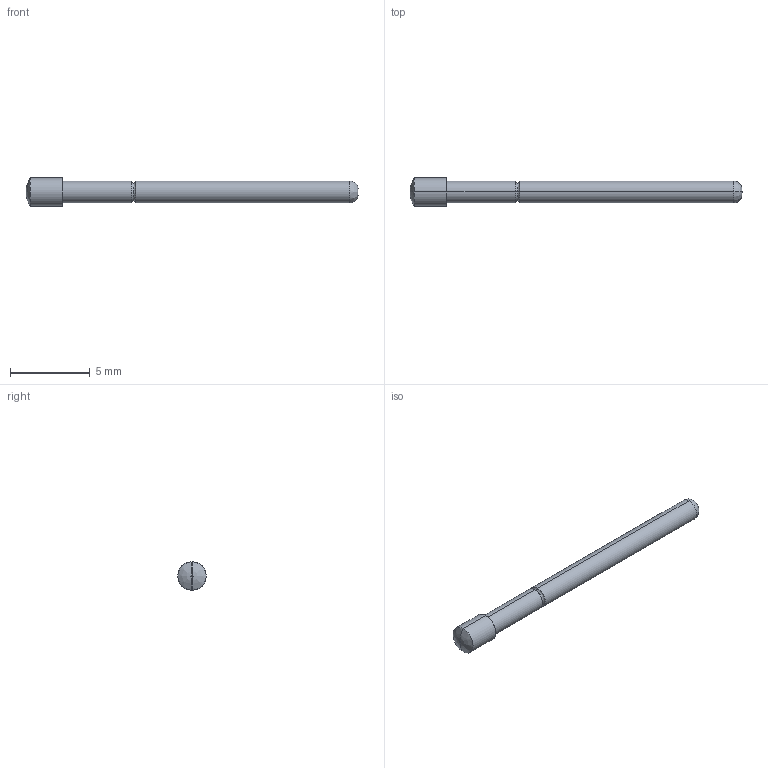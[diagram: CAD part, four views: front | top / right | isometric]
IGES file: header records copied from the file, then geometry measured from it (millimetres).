
Start section: SolidWorks IGES file using analytic representation for surfaces
Global section: file name: O:\PYLON\IGES FILES\P2664\P2664G-2R1S FULL.IGS; native system: SolidWorks 2015; preprocessor: SolidWorks 2015; author: kgolden; date: 171019.130935; units: inch
Bounding box: 20.85 x 1.78 x 1.78 mm (x, y, z)
Surface area: 101 mm2 (no closed solid volume)
Topology: 0 solids, 0 shells, 22 faces, 184 edges, 184 vertices
Faces by surface type: bspline 12, revolution 10
